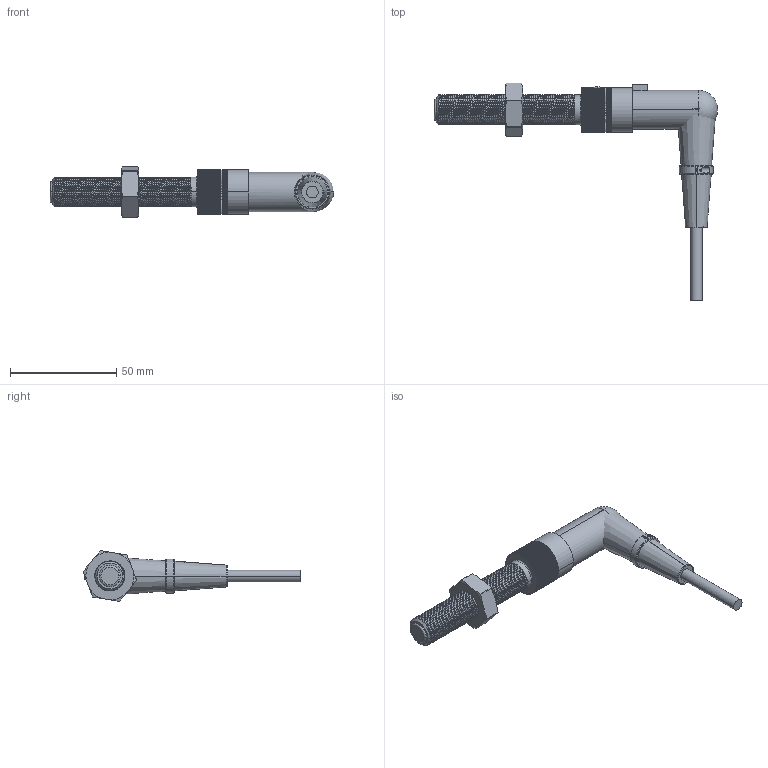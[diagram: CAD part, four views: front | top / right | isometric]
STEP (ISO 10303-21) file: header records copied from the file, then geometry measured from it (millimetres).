
FILE_DESCRIPTION (( 'STEP AP214' ), '1' );
FILE_NAME ('ﾋﾈﾐ-ﾌﾈ633.STEP', '2017-05-23T08:30:30', ( '' ), ( '' ), 'SwSTEP 2.0', 'SolidWorks 2013', '' );
FILE_SCHEMA (( 'AUTOMOTIVE_DESIGN' ));
Length unit declared in the file: millimetre
Products named in the file (1): ﾋﾈﾐ-ﾌﾈ633
Bounding box: 133 x 102.25 x 23.82 mm (x, y, z)
Volume: 28061.4 mm3; surface area: 25617.7 mm2
Topology: 17 solids, 17 shells, 1289 faces, 3683 edges, 2427 vertices
Faces by surface type: plane 873, cylinder 274, cone 112, sphere 14, torus 10, bspline 6
Entity records: 63425 total; most frequent: CARTESIAN_POINT 16349, ORIENTED_EDGE 7338, DIRECTION 6168, EDGE_CURVE 3669, LINE 2722, VECTOR 2722, VERTEX_POINT 2427, AXIS2_PLACEMENT_3D 1723
